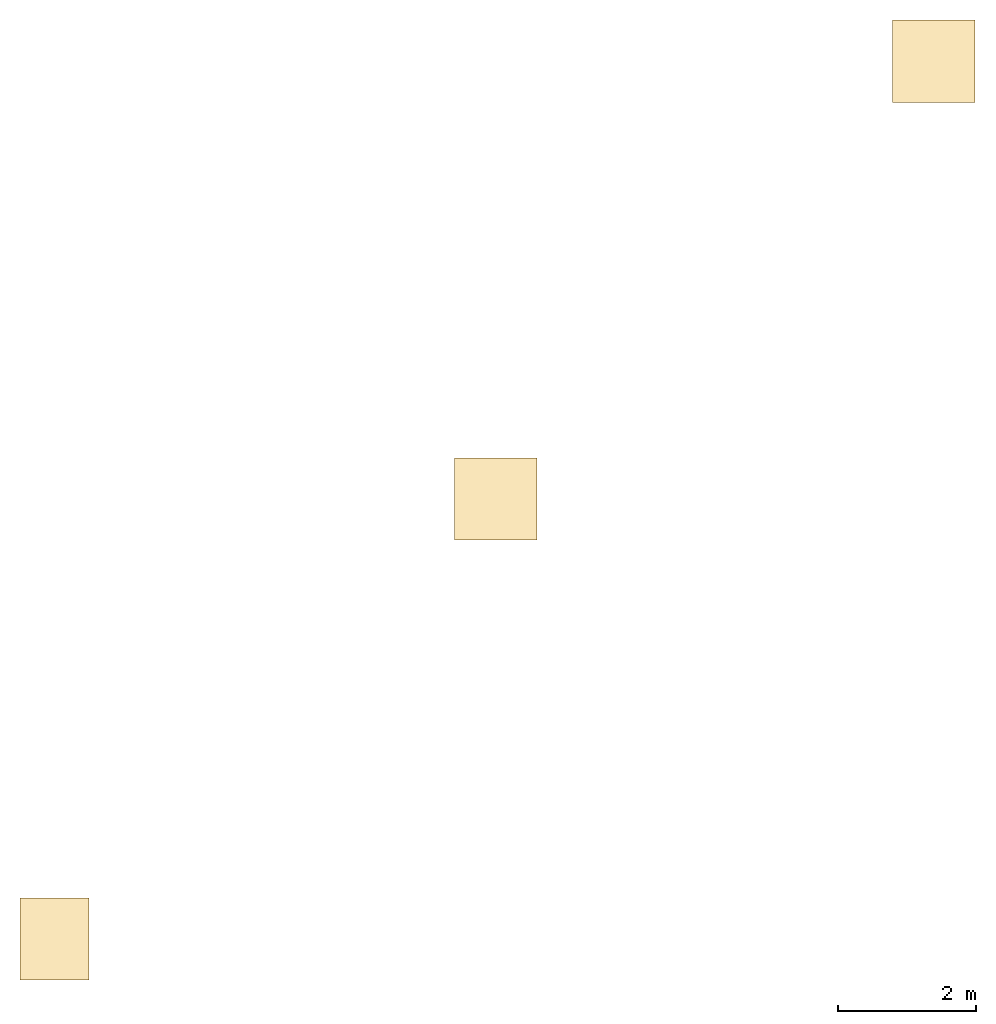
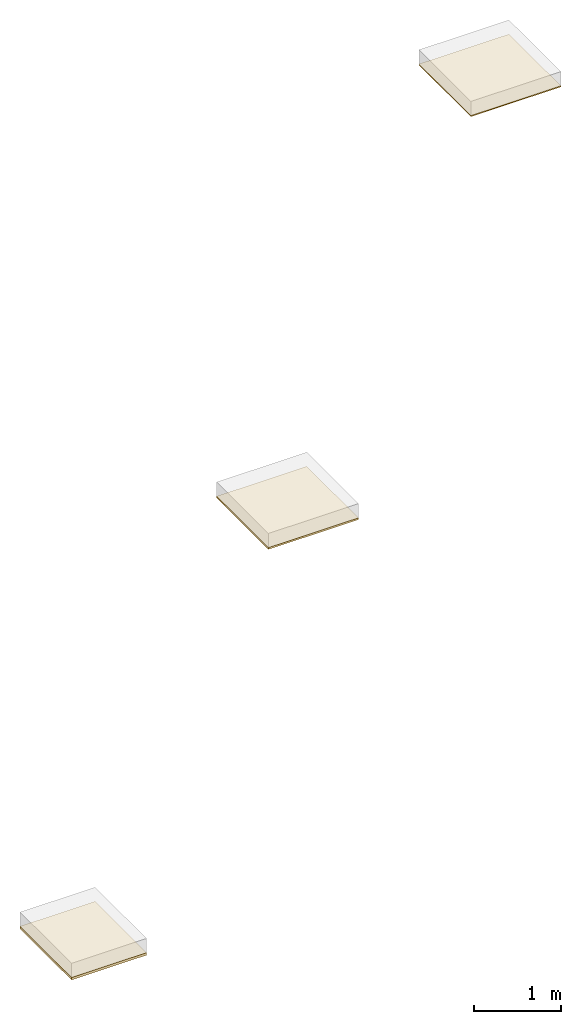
# One storey, part 2 of 2: 3 coverings.
"""IFC2X3 building model written with IfcOpenShell, lengths in millimetres."""

import ifcopenshell
import ifcopenshell.guid

model = None  # the IFC model being written
_history = None  # IfcOwnerHistory: only IFC2X3 demands one
_inside = {}  # id of a spatial element -> (the spatial element, [elements in it])
_under = {}  # id of a project, library or spatial element -> (it, [spatial elements below it])
_declared = {}  # id of a project -> (the project, [libraries it declares])
_typed = {}  # id of a type object -> (the type object, [elements of that type])
_made_of = {}  # id of a material, layer set ... -> (it, [elements and type objects made of it])


def new_model(schema):
    """Start an empty IFC model of exactly this schema.

    Asked for "IFC4X3", IfcOpenShell would pick the latest addendum, in which some entities
    have other attributes; the version numbers below select the first issue.
    IFC2X3 requires an IfcOwnerHistory on every rooted entity: one is made here for all.
    """
    global model, _history
    if schema == "IFC4X3":
        model = ifcopenshell.file(schema_version=(4, 3, 0, 0))
    else:
        model = ifcopenshell.file(schema=schema)
    _inside.clear()
    _under.clear()
    _declared.clear()
    _typed.clear()
    _made_of.clear()
    _history = None
    if model.schema == "IFC2X3":
        org = make("IfcOrganization", Name="unknown")
        user = make(
            "IfcPersonAndOrganization",
            ThePerson=make("IfcPerson", FamilyName="unknown"),
            TheOrganization=org,
        )
        app = make(
            "IfcApplication",
            ApplicationDeveloper=org,
            Version="unknown",
            ApplicationFullName="unknown",
            ApplicationIdentifier="unknown",
        )
        _history = make(
            "IfcOwnerHistory",
            OwningUser=user,
            OwningApplication=app,
            ChangeAction="ADDED",
            CreationDate=0,
        )
    return model


def make(cls, **values):
    """One entity of the class cls with the attributes given. An attribute that is None is left unset."""
    return model.create_entity(
        cls, **{name: value for name, value in values.items() if value is not None}
    )


def entity(cls, *values):
    """Any entity or typed value of the class cls, its attributes in the order of the schema. None: left unset."""
    e = model.create_entity(cls)
    for i, value in enumerate(values):
        if value is not None:
            e[i] = value
    return e


def rooted(cls, **values):
    """An entity with a GlobalId (a new one), such as an element, a storey or a relation."""
    return make(cls, GlobalId=ifcopenshell.guid.new(), OwnerHistory=_history, **values)


def si_unit(unit_type, name, prefix=None):
    """IfcSIUnit, for example si_unit("LENGTHUNIT", "METRE", prefix="MILLI")."""
    return make("IfcSIUnit", UnitType=unit_type, Prefix=prefix, Name=name)


def converted_unit(unit_type, name, factor, base, dimensions=None, offset=None):
    """IfcConversionBasedUnit, such as the inch: factor (a typed value) times the base unit."""
    return make(
        "IfcConversionBasedUnit"
        if offset is None
        else "IfcConversionBasedUnitWithOffset",
        ConversionOffset=offset,
        Dimensions=None
        if dimensions is None
        else entity("IfcDimensionalExponents", *dimensions),
        UnitType=unit_type,
        Name=name,
        ConversionFactor=make(
            "IfcMeasureWithUnit", ValueComponent=factor, UnitComponent=base
        ),
    )


def derived_unit(unit_type, elements):
    """IfcDerivedUnit: a product of units, each with its exponent."""
    return make(
        "IfcDerivedUnit",
        Elements=[
            make("IfcDerivedUnitElement", Unit=unit, Exponent=power)
            for unit, power in elements
        ],
        UnitType=unit_type,
    )


def assignment(units):
    """IfcUnitAssignment: the units of a project."""
    return None if units is None else make("IfcUnitAssignment", Units=units)


def point(xyz):
    """IfcCartesianPoint."""
    return None if xyz is None else make("IfcCartesianPoint", Coordinates=xyz)


def direction(xyz):
    """IfcDirection."""
    return None if xyz is None else make("IfcDirection", DirectionRatios=xyz)


def frame(location, z_axis=None, x_axis=None):
    """IfcAxis2Placement3D, a coordinate frame: its origin and axes. An axis left out is left unset."""
    return make(
        "IfcAxis2Placement3D",
        Location=point(location),
        Axis=direction(z_axis),
        RefDirection=direction(x_axis),
    )


def frame_2d(location, x_axis=None):
    """IfcAxis2Placement2D, a coordinate frame in the plane: its origin and x axis."""
    return make(
        "IfcAxis2Placement2D", Location=point(location), RefDirection=direction(x_axis)
    )


def origin():
    """The frame at (0, 0, 0) with its axes left unset."""
    return frame((0.0, 0.0, 0.0))


def origin_2d_with_axis():
    """The frame at (0, 0) in the plane with the x axis (1, 0) written out."""
    return frame_2d((0.0, 0.0), x_axis=(1.0, 0.0))


def place(relative_to, where):
    """IfcLocalPlacement: puts the frame where relative to a parent placement (None: the world)."""
    return make(
        "IfcLocalPlacement", PlacementRelTo=relative_to, RelativePlacement=where
    )


def context(
    kind, dimensions, precision=None, world=None, true_north=None, identifier=None
):
    """IfcGeometricRepresentationContext, for example the 3D "Model" context."""
    return make(
        "IfcGeometricRepresentationContext",
        ContextIdentifier=identifier,
        ContextType=kind,
        CoordinateSpaceDimension=dimensions,
        Precision=precision,
        WorldCoordinateSystem=world,
        TrueNorth=true_north,
    )


def subcontext(parent, identifier, kind, view, scale=None):
    """IfcGeometricRepresentationSubContext, for example "Body" below "Model"."""
    return make(
        "IfcGeometricRepresentationSubContext",
        ContextIdentifier=identifier,
        ContextType=kind,
        ParentContext=parent,
        TargetScale=scale,
        TargetView=view,
    )


def project(units=None, contexts=None):
    """IfcProject with its units and contexts."""
    return rooted(
        "IfcProject",
        Name="project",
        RepresentationContexts=contexts,
        UnitsInContext=assignment(units),
    )


def spatial(cls, under=None, at=None, **own):
    """A site, building, storey or space (cls), placed at a placement, below another one or the project."""
    s = rooted(cls, ObjectPlacement=at, **own)
    if under is not None:
        _under.setdefault(under.id(), (under, []))[1].append(s)
    return s


def profile(cls, at=None, kind="AREA", **sizes):
    """A parametric profile (cls). Its sizes go by their IFC names, for example OverallWidth=200.0."""
    return make(cls, ProfileType=kind, Position=at, **sizes)


def rectangle(**sizes):
    """IfcRectangleProfileDef."""
    return profile("IfcRectangleProfileDef", **sizes)


def extrude(swept, where, along, depth):
    """IfcExtrudedAreaSolid: the profile swept, set in the frame where, extruded along a direction by depth."""
    return make(
        "IfcExtrudedAreaSolid",
        SweptArea=swept,
        Position=where,
        ExtrudedDirection=direction(along),
        Depth=depth,
    )


def shape(context_of_items, identifier, shape_type, items):
    """IfcShapeRepresentation: the items that make up one representation, for example the "Body"."""
    return make(
        "IfcShapeRepresentation",
        ContextOfItems=context_of_items,
        RepresentationIdentifier=identifier,
        RepresentationType=shape_type,
        Items=items,
    )


def material(Name=None, Category=None):
    """IfcMaterial."""
    return make("IfcMaterial", Name=Name, Category=Category)


def layer(
    of_material, thickness, ventilated=None, Name=None, Category=None, Priority=None
):
    """IfcMaterialLayer: one layer of a wall or slab, of a material (None: an air gap)."""
    return make(
        "IfcMaterialLayer",
        Material=of_material,
        LayerThickness=thickness,
        IsVentilated=ventilated,
        Name=Name,
        Category=Category,
        Priority=Priority,
    )


def layer_set(layers, Name=None):
    """IfcMaterialLayerSet."""
    return make("IfcMaterialLayerSet", MaterialLayers=layers, LayerSetName=Name)


def layer_usage(for_layer_set, set_direction, sense, offset, extent=None):
    """IfcMaterialLayerSetUsage: how a layer set lies in its element."""
    return make(
        "IfcMaterialLayerSetUsage",
        ForLayerSet=for_layer_set,
        LayerSetDirection=set_direction,
        DirectionSense=sense,
        OffsetFromReferenceLine=offset,
        ReferenceExtent=extent,
    )


def made_of(thing, what):
    """Note that an element or type object is made of a material, layer set ...; save() writes the relation."""
    if what is not None:
        _made_of.setdefault(what.id(), (what, []))[1].append(thing)
    return thing


def type_object(cls, material=None, **own):
    """A type object (cls), such as IfcWallType, which elements share."""
    return made_of(rooted(cls, **own), material)


def element(
    cls,
    number,
    at=None,
    inside=None,
    cuts=None,
    type_object=None,
    material=None,
    context=None,
    identifier="Body",
    shape_type=None,
    held_by="IfcProductDefinitionShape",
    body=None,
    shapes=None,
    **own,
):
    """One element of the class cls, such as IfcWall. Its Tag is "e" and its number.

    at: its placement. inside: the storey or other place that contains it. cuts: it is an
    opening in that element (IfcRelVoidsElement). A single representation is given by context,
    identifier, shape_type and body (its items); several are given by shapes. held_by: the class
    of the entity that holds the representations. save() writes the other relations.
    """
    e = rooted(cls, Tag="e%d" % number, ObjectPlacement=at, **own)
    if body is not None:
        shapes = [shape(context, identifier, shape_type, body)]
    if shapes is not None:
        e.Representation = make(held_by, Representations=shapes)
    if inside is not None:
        _inside.setdefault(inside.id(), (inside, []))[1].append(e)
    if cuts is not None:
        rooted(
            "IfcRelVoidsElement", RelatingBuildingElement=cuts, RelatedOpeningElement=e
        )
    if type_object is not None:
        _typed.setdefault(type_object.id(), (type_object, []))[1].append(e)
    return made_of(e, material)


def aggregate(whole, parts):
    """IfcRelAggregates: a whole, such as a stair, and the parts it consists of."""
    return rooted("IfcRelAggregates", RelatingObject=whole, RelatedObjects=parts)


def save(model, path):
    """Write the relations noted so far, then the file.

    IfcRelAggregates (storeys below a building ...), IfcRelContainedInSpatialStructure (elements
    in a storey), IfcRelDefinesByType, IfcRelAssociatesMaterial and IfcRelDeclares: one each for
    every whole, place, type object, material and project.
    """
    for whole, parts in _under.values():
        aggregate(whole, parts)
    for where, things in _inside.values():
        rooted(
            "IfcRelContainedInSpatialStructure",
            RelatedElements=things,
            RelatingStructure=where,
        )
    for kind, things in _typed.values():
        rooted("IfcRelDefinesByType", RelatedObjects=things, RelatingType=kind)
    for what, things in _made_of.values():
        rooted("IfcRelAssociatesMaterial", RelatedObjects=things, RelatingMaterial=what)
    for by, libraries in _declared.values():
        rooted("IfcRelDeclares", RelatingContext=by, RelatedDefinitions=libraries)
    model.write(path)


model = new_model("IFC2X3")

# Units and contexts
model_context = context("Model", 3, precision=0.01, world=origin(), true_north=direction((6.12303176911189e-17, 1.0)))
context_of_model = context(None, 3, precision=0.01, world=origin(), true_north=direction((6.12303176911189e-17, 1.0)))
body_context = subcontext(model_context, "Body", "Model", "MODEL_VIEW")
ifc_project = project(units=[si_unit("LENGTHUNIT", "METRE", prefix="MILLI"), si_unit("AREAUNIT", "SQUARE_METRE"), si_unit("VOLUMEUNIT", "CUBIC_METRE"), converted_unit("PLANEANGLEUNIT", "DEGREE", entity("IfcRatioMeasure", 0.0174532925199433), si_unit("PLANEANGLEUNIT", "RADIAN"), dimensions=[0, 0, 0, 0, 0, 0, 0]), si_unit("MASSUNIT", "GRAM", prefix="KILO"), derived_unit("MASSDENSITYUNIT", [(si_unit("MASSUNIT", "GRAM", prefix="KILO"), 1), (si_unit("LENGTHUNIT", "METRE"), -3)]), derived_unit("MOMENTOFINERTIAUNIT", [(si_unit("LENGTHUNIT", "METRE"), 4)]), si_unit("TIMEUNIT", "SECOND"), si_unit("FREQUENCYUNIT", "HERTZ"), si_unit("THERMODYNAMICTEMPERATUREUNIT", "DEGREE_CELSIUS"), derived_unit("THERMALTRANSMITTANCEUNIT", [(si_unit("MASSUNIT", "GRAM", prefix="KILO"), 1), (si_unit("THERMODYNAMICTEMPERATUREUNIT", "KELVIN"), -1), (si_unit("TIMEUNIT", "SECOND"), -3)]), derived_unit("VOLUMETRICFLOWRATEUNIT", [(si_unit("LENGTHUNIT", "METRE"), 3), (si_unit("TIMEUNIT", "SECOND"), -1)]), si_unit("ELECTRICCURRENTUNIT", "AMPERE"), si_unit("ELECTRICVOLTAGEUNIT", "VOLT"), si_unit("POWERUNIT", "WATT"), si_unit("FORCEUNIT", "NEWTON", prefix="KILO"), si_unit("ILLUMINANCEUNIT", "LUX"), si_unit("LUMINOUSFLUXUNIT", "LUMEN"), si_unit("LUMINOUSINTENSITYUNIT", "CANDELA"), derived_unit("USERDEFINED", [(si_unit("MASSUNIT", "GRAM", prefix="KILO"), -1), (si_unit("LENGTHUNIT", "METRE"), -2), (si_unit("TIMEUNIT", "SECOND"), 3), (si_unit("LUMINOUSFLUXUNIT", "LUMEN"), 1)]), derived_unit("LINEARVELOCITYUNIT", [(si_unit("LENGTHUNIT", "METRE"), 1), (si_unit("TIMEUNIT", "SECOND"), -1)]), si_unit("PRESSUREUNIT", "PASCAL"), derived_unit("USERDEFINED", [(si_unit("LENGTHUNIT", "METRE"), -2), (si_unit("MASSUNIT", "GRAM", prefix="KILO"), 1), (si_unit("TIMEUNIT", "SECOND"), -2)]), derived_unit("LINEARFORCEUNIT", [(si_unit("MASSUNIT", "GRAM", prefix="KILO"), 1), (si_unit("LENGTHUNIT", "METRE"), 1), (si_unit("TIMEUNIT", "SECOND"), -2), (si_unit("LENGTHUNIT", "METRE"), -1)]), derived_unit("PLANARFORCEUNIT", [(si_unit("MASSUNIT", "GRAM", prefix="KILO"), 1), (si_unit("LENGTHUNIT", "METRE"), 1), (si_unit("TIMEUNIT", "SECOND"), -2), (si_unit("LENGTHUNIT", "METRE"), -2)])], contexts=[model_context, context_of_model])

# Site, building, storey
site_placement = place(None, origin())
site = spatial("IfcSite", under=ifc_project, at=site_placement, Name="Default", CompositionType="ELEMENT")
building_placement = place(site_placement, origin())
building = spatial("IfcBuilding", under=site, at=building_placement, CompositionType="ELEMENT")
storey_placement = place(building_placement, frame((0.0, 0.0, 1200.0)))
storey = spatial("IfcBuildingStorey", under=building, at=storey_placement, Name="01 eerste verdieping", CompositionType="ELEMENT", Elevation=1200.0)

# Coverings
ifc_material_1 = material(Name="Heraklith A2 afbouwpaneel - Houtwollaag - 1200x600mm")
ifc_layer_1 = layer(ifc_material_1, 15.0)
ifc_layer_set_1 = layer_set([ifc_layer_1], Name="Compound Ceiling:NLRS_45_CEI_Heraklith A2  afbouwpaneel 15x1200x600mm")
ifc_layer_usage_1 = layer_usage(ifc_layer_set_1, "AXIS3", "POSITIVE", 0.0)
covering_type_1 = type_object("IfcCoveringType", Name="Compound Ceiling:NLRS_45_CEI_Heraklith A2  afbouwpaneel 15x1200x600mm", PredefinedType="CEILING")
covering_1_placement = place(storey_placement, origin())
element("IfcCovering", 1, at=covering_1_placement, inside=storey, type_object=covering_type_1, material=ifc_layer_usage_1, Name="Compound Ceiling:NLRS_45_CEI_Heraklith A2  afbouwpaneel 15x1200x600mm", ObjectType="Compound Ceiling:NLRS_45_CEI_Heraklith A2  afbouwpaneel 15x1200x600mm", PredefinedType="CEILING", context=body_context, shape_type="SweptSolid", body=[
    extrude(rectangle(XDim=1200.0, YDim=1200.0, at=frame_2d((0.0, 2.1600499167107e-12), x_axis=(1.0, 0.0))), frame((13327.9220613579, 15042.9220613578, -15.0), z_axis=(0.0, 0.0, 1.0), x_axis=(0.0, 1.0, 0.0)), (0.0, 0.0, 1.0), 15.0),
])
ifc_layer_2 = layer(ifc_material_1, 25.0)
ifc_layer_set_2 = layer_set([ifc_layer_2], Name="Compound Ceiling:NLRS_45_CEI_Heraklith A2  afbouwpaneel 25x1200x600mm")
ifc_layer_usage_2 = layer_usage(ifc_layer_set_2, "AXIS3", "POSITIVE", 0.0)
covering_type_2 = type_object("IfcCoveringType", Name="Compound Ceiling:NLRS_45_CEI_Heraklith A2  afbouwpaneel 25x1200x600mm", PredefinedType="CEILING")
covering_2_placement = place(storey_placement, origin())
element("IfcCovering", 2, at=covering_2_placement, inside=storey, type_object=covering_type_2, material=ifc_layer_usage_2, Name="Compound Ceiling:NLRS_45_CEI_Heraklith A2  afbouwpaneel 25x1200x600mm", ObjectType="Compound Ceiling:NLRS_45_CEI_Heraklith A2  afbouwpaneel 25x1200x600mm", PredefinedType="CEILING", context=body_context, shape_type="SweptSolid", body=[
    extrude(rectangle(XDim=1195.00000000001, YDim=1200.0, at=origin_2d_with_axis()), frame((6958.9610306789, 8681.46103067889, -25.0), z_axis=(0.0, 0.0, 1.0), x_axis=(0.0, 1.0, 0.0)), (0.0, 0.0, 1.0), 25.0),
])
ifc_material_2 = material(Name="Heraklith A2 afbouwpaneel - Houtwollaag - 1000x600mm")
ifc_layer_3 = layer(ifc_material_2, 35.0)
ifc_layer_set_3 = layer_set([ifc_layer_3], Name="Compound Ceiling:NLRS_45_CEI_Heraklith A2  afbouwpaneel 35x1000x600mm")
ifc_layer_usage_3 = layer_usage(ifc_layer_set_3, "AXIS3", "POSITIVE", 0.0)
covering_type_3 = type_object("IfcCoveringType", Name="Compound Ceiling:NLRS_45_CEI_Heraklith A2  afbouwpaneel 35x1000x600mm", PredefinedType="CEILING")
covering_3_placement = place(storey_placement, origin())
element("IfcCovering", 3, at=covering_3_placement, inside=storey, type_object=covering_type_3, material=ifc_layer_usage_3, Name="Compound Ceiling:NLRS_45_CEI_Heraklith A2  afbouwpaneel 35x1000x600mm", ObjectType="Compound Ceiling:NLRS_45_CEI_Heraklith A2  afbouwpaneel 35x1000x600mm", PredefinedType="CEILING", context=body_context, shape_type="SweptSolid", body=[
    extrude(rectangle(XDim=1190.00000000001, YDim=1000.0, at=frame_2d((1.13686837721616e-13, 0.0), x_axis=(1.0, 0.0))), frame((542.142117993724, 2282.07547272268, 0.0), z_axis=(0.0, 0.0, 1.0), x_axis=(0.0, 1.0, 0.0)), (0.0, 0.0, 1.0), 34.9999999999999),
])

save(model, "model.ifc")
